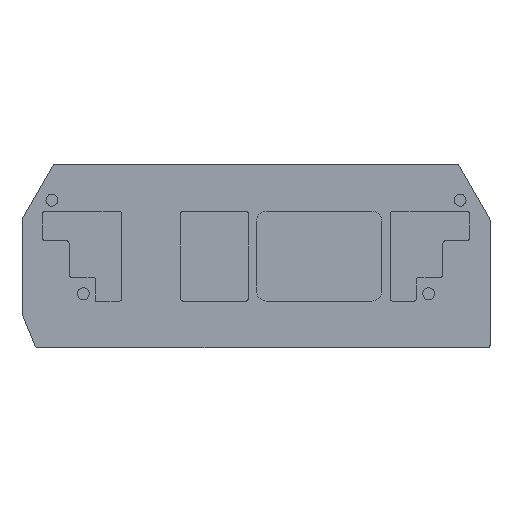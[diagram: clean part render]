
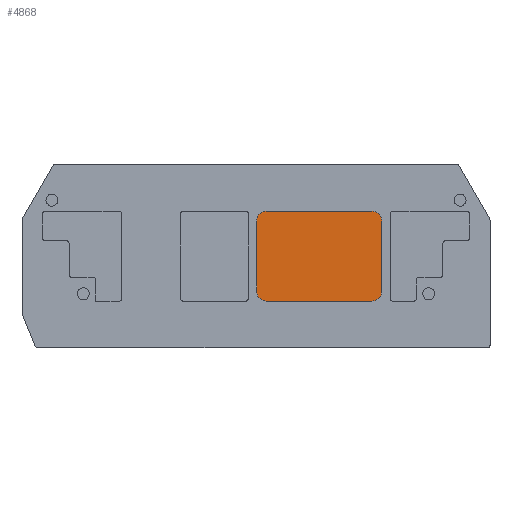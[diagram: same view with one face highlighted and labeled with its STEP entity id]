
A CAD part, top view. The second image highlights one B-rep face of the part: STEP entity #4868.
In plain terms, the highlighted planar face has unit normal (0, 0, 1).
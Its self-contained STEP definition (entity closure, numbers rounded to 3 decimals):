
#275 = EDGE_CURVE ( 'NONE', #1983, #311, #3970, .T. ) ;
#294 = CARTESIAN_POINT ( 'NONE',  ( 25.1, -11.35, -0.2 ) ) ;
#311 = VERTEX_POINT ( 'NONE', #1353 ) ;
#331 = AXIS2_PLACEMENT_3D ( 'NONE', #950, #1479, #5417 ) ;
#461 = VERTEX_POINT ( 'NONE', #3887 ) ;
#548 = EDGE_CURVE ( 'NONE', #311, #6294, #1420, .T. ) ;
#942 = VERTEX_POINT ( 'NONE', #2944 ) ;
#950 = CARTESIAN_POINT ( 'NONE',  ( 23.1, -11.35, -0.2 ) ) ;
#1224 = ORIENTED_EDGE ( 'NONE', *, *, #275, .T. ) ;
#1247 = LINE ( 'NONE', #2417, #2237 ) ;
#1317 = AXIS2_PLACEMENT_3D ( 'NONE', #2296, #3824, #4296 ) ;
#1353 = CARTESIAN_POINT ( 'NONE',  ( 2.1, -27.3, -0.2 ) ) ;
#1416 = EDGE_CURVE ( 'NONE', #5661, #4979, #2398, .T. ) ;
#1420 = LINE ( 'NONE', #4503, #4371 ) ;
#1479 = DIRECTION ( 'NONE',  ( 0., 0., 1. ) ) ;
#1581 = FACE_OUTER_BOUND ( 'NONE', #3289, .T. ) ;
#1669 = CARTESIAN_POINT ( 'NONE',  ( 23.1, -9.35, -0.2 ) ) ;
#1713 = VECTOR ( 'NONE', #3732, 1000. ) ;
#1983 = VERTEX_POINT ( 'NONE', #2394 ) ;
#2043 = DIRECTION ( 'NONE',  ( 0., 0., -1. ) ) ;
#2081 = DIRECTION ( 'NONE',  ( 1., 0., 0. ) ) ;
#2126 = CARTESIAN_POINT ( 'NONE',  ( 2.1, -11.35, -0.2 ) ) ;
#2137 = EDGE_CURVE ( 'NONE', #4979, #942, #1247, .T. ) ;
#2175 = EDGE_CURVE ( 'NONE', #942, #461, #4650, .T. ) ;
#2206 = CARTESIAN_POINT ( 'NONE',  ( 25.1, -9.35, -0.2 ) ) ;
#2237 = VECTOR ( 'NONE', #3475, 1000. ) ;
#2296 = CARTESIAN_POINT ( 'NONE',  ( 2.1, -25.3, -0.2 ) ) ;
#2394 = CARTESIAN_POINT ( 'NONE',  ( 0.1, -25.3, -0.2 ) ) ;
#2398 = CIRCLE ( 'NONE', #331, 2. ) ;
#2417 = CARTESIAN_POINT ( 'NONE',  ( 0.1, -9.35, -0.2 ) ) ;
#2447 = ORIENTED_EDGE ( 'NONE', *, *, #4176, .T. ) ;
#2517 = DIRECTION ( 'NONE',  ( 0., 0., 1. ) ) ;
#2862 = ORIENTED_EDGE ( 'NONE', *, *, #548, .T. ) ;
#2944 = CARTESIAN_POINT ( 'NONE',  ( 2.1, -9.35, -0.2 ) ) ;
#3005 = DIRECTION ( 'NONE',  ( 0., 0., 1. ) ) ;
#3206 = ORIENTED_EDGE ( 'NONE', *, *, #5208, .T. ) ;
#3285 = LINE ( 'NONE', #3755, #4615 ) ;
#3289 = EDGE_LOOP ( 'NONE', ( #2862, #3206, #5936, #4297, #4156, #3540, #2447, #1224 ) ) ;
#3421 = AXIS2_PLACEMENT_3D ( 'NONE', #2126, #2517, #6012 ) ;
#3475 = DIRECTION ( 'NONE',  ( -1., 0., 0. ) ) ;
#3540 = ORIENTED_EDGE ( 'NONE', *, *, #2175, .T. ) ;
#3732 = DIRECTION ( 'NONE',  ( 0., 1., 0. ) ) ;
#3755 = CARTESIAN_POINT ( 'NONE',  ( 0.1, -9.35, -0.2 ) ) ;
#3824 = DIRECTION ( 'NONE',  ( 0., 0., 1. ) ) ;
#3887 = CARTESIAN_POINT ( 'NONE',  ( 0.1, -11.35, -0.2 ) ) ;
#3908 = AXIS2_PLACEMENT_3D ( 'NONE', #4022, #2043, #5972 ) ;
#3970 = CIRCLE ( 'NONE', #1317, 2. ) ;
#4022 = CARTESIAN_POINT ( 'NONE',  ( 0., 0., -0.2 ) ) ;
#4156 = ORIENTED_EDGE ( 'NONE', *, *, #2137, .T. ) ;
#4176 = EDGE_CURVE ( 'NONE', #461, #1983, #3285, .T. ) ;
#4215 = AXIS2_PLACEMENT_3D ( 'NONE', #4898, #3005, #5891 ) ;
#4258 = DIRECTION ( 'NONE',  ( 0., -1., 0. ) ) ;
#4296 = DIRECTION ( 'NONE',  ( -1., 0., 0. ) ) ;
#4297 = ORIENTED_EDGE ( 'NONE', *, *, #1416, .T. ) ;
#4371 = VECTOR ( 'NONE', #2081, 1000. ) ;
#4448 = VERTEX_POINT ( 'NONE', #5599 ) ;
#4503 = CARTESIAN_POINT ( 'NONE',  ( 25.1, -27.3, -0.2 ) ) ;
#4505 = PLANE ( 'NONE',  #3908 ) ;
#4599 = CIRCLE ( 'NONE', #4215, 2. ) ;
#4615 = VECTOR ( 'NONE', #4258, 1000. ) ;
#4650 = CIRCLE ( 'NONE', #3421, 2. ) ;
#4868 = ADVANCED_FACE ( 'NONE', ( #1581 ), #4505, .F. ) ;
#4898 = CARTESIAN_POINT ( 'NONE',  ( 23.1, -25.3, -0.2 ) ) ;
#4979 = VERTEX_POINT ( 'NONE', #1669 ) ;
#5208 = EDGE_CURVE ( 'NONE', #6294, #4448, #4599, .T. ) ;
#5417 = DIRECTION ( 'NONE',  ( -1., 0., 0. ) ) ;
#5422 = CARTESIAN_POINT ( 'NONE',  ( 23.1, -27.3, -0.2 ) ) ;
#5599 = CARTESIAN_POINT ( 'NONE',  ( 25.1, -25.3, -0.2 ) ) ;
#5661 = VERTEX_POINT ( 'NONE', #294 ) ;
#5891 = DIRECTION ( 'NONE',  ( -1., 0., 0. ) ) ;
#5936 = ORIENTED_EDGE ( 'NONE', *, *, #6192, .T. ) ;
#5972 = DIRECTION ( 'NONE',  ( -1., 0., 0. ) ) ;
#6012 = DIRECTION ( 'NONE',  ( -1., 0., 0. ) ) ;
#6101 = LINE ( 'NONE', #2206, #1713 ) ;
#6192 = EDGE_CURVE ( 'NONE', #4448, #5661, #6101, .T. ) ;
#6294 = VERTEX_POINT ( 'NONE', #5422 ) ;
